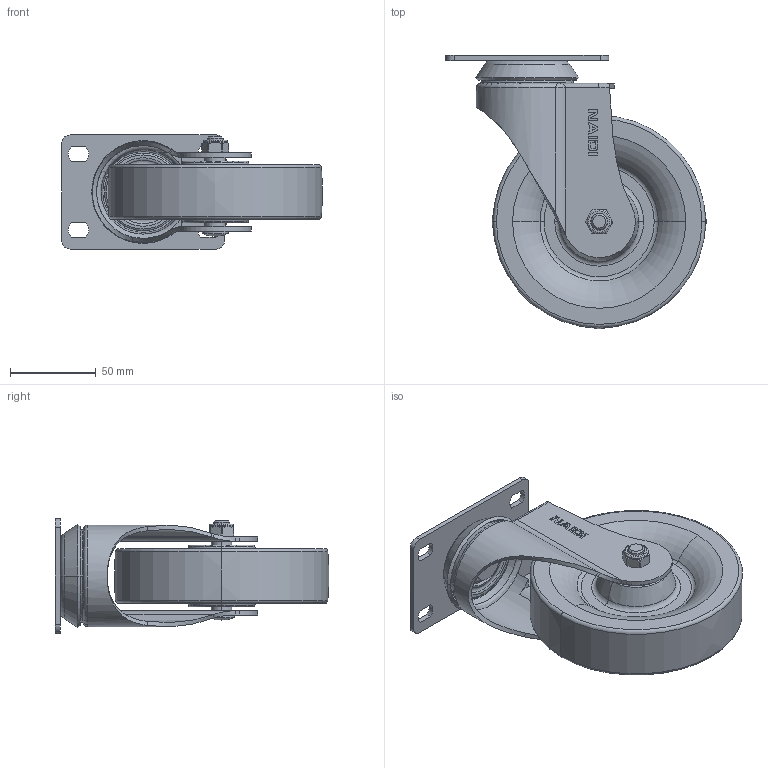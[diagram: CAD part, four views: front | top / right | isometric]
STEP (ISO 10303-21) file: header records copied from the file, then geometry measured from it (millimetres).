
FILE_DESCRIPTION((''),'2;1');
FILE_NAME('B55115_ASM','2024-08-13T',('Lenovo'),(''),'PRO/ENGINEER BY PARAMETRIC TECHNOLOGY CORPORATION, 2010280','PRO/ENGINEER BY PARAMETRIC TECHNOLOGY CORPORATION, 2010280','');
FILE_SCHEMA(('CONFIG_CONTROL_DESIGN'));
Length unit declared in the file: millimetre
Products named in the file (9): B5515-311; 570-03A; 570-01; 500-31; B555-986; 500-54; 570-33; 570-34; B55115_ASM
Assembly tree (8 placements, depth 2):
  B55115_ASM
    B5515-311
    570-03A
    570-01
    500-31
    B555-986
    500-54
    570-33
    570-34
Bounding box: 151.91 x 159.44 x 66.5 mm (x, y, z)
Volume: 379311 mm3; surface area: 102128.8 mm2
Topology: 8 solids, 8 shells, 314 faces, 737 edges, 455 vertices
Faces by surface type: plane 125, torus 63, cylinder 62, cone 38, bspline 18, extrusion 6, sphere 2
Entity records: 10080 total; most frequent: CARTESIAN_POINT 2601, DIRECTION 1599, ORIENTED_EDGE 1470, EDGE_CURVE 735, AXIS2_PLACEMENT_3D 627, VERTEX_POINT 455, EDGE_LOOP 356, VECTOR 345
